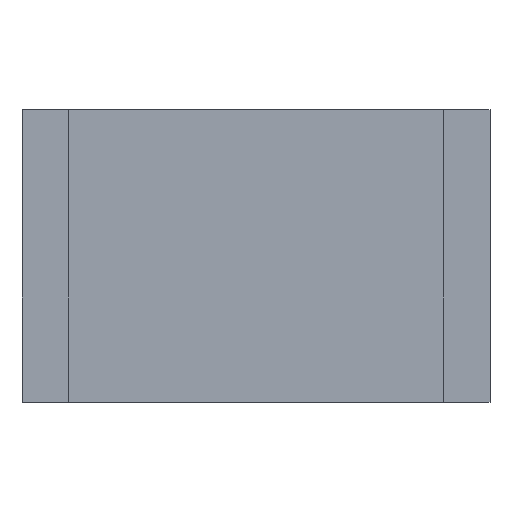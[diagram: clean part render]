
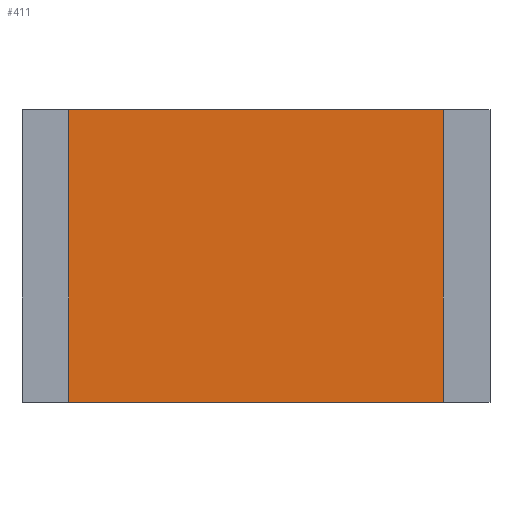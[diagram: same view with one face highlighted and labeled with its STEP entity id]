
A CAD part, top view. The second image highlights one B-rep face of the part: STEP entity #411.
In plain terms, the highlighted planar face has unit normal (0, 0, 1).
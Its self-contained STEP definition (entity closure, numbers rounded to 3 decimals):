
#411=ADVANCED_FACE('',(#810),#812,.T.);
#810=FACE_BOUND('',#811,.T.);
#811=EDGE_LOOP('',(#1097,#1098,#1099,#1100));
#812=PLANE('',#813);
#813=AXIS2_PLACEMENT_3D('',#814,#815,#816);
#814=CARTESIAN_POINT('',(0.,0.,0.325));
#815=DIRECTION('',(0.,0.,1.));
#816=DIRECTION('',(1.,0.,0.));
#1097=ORIENTED_EDGE('',*,*,#1269,.T.);
#1098=ORIENTED_EDGE('',*,*,#1273,.T.);
#1099=ORIENTED_EDGE('',*,*,#1276,.T.);
#1100=ORIENTED_EDGE('',*,*,#1278,.T.);
#1269=EDGE_CURVE('',#1435,#1433,#1436,.T.);
#1273=EDGE_CURVE('',#1433,#1440,#1442,.T.);
#1276=EDGE_CURVE('',#1440,#1445,#1447,.T.);
#1278=EDGE_CURVE('',#1445,#1435,#1449,.T.);
#1433=VERTEX_POINT('',#1760);
#1435=VERTEX_POINT('',#1764);
#1436=LINE('',#1765,#1766);
#1440=VERTEX_POINT('',#1775);
#1442=LINE('',#1779,#1780);
#1445=VERTEX_POINT('',#1786);
#1447=LINE('',#1790,#1791);
#1449=LINE('',#1796,#1797);
#1760=CARTESIAN_POINT('',(-0.8,0.625,0.325));
#1764=CARTESIAN_POINT('',(0.8,0.625,0.325));
#1765=CARTESIAN_POINT('',(0.8,0.625,0.325));
#1766=VECTOR('',#1767,1.);
#1767=DIRECTION('',(-1.,0.,0.));
#1775=CARTESIAN_POINT('',(-0.8,-0.625,0.325));
#1779=CARTESIAN_POINT('',(-0.8,0.625,0.325));
#1780=VECTOR('',#1781,1.);
#1781=DIRECTION('',(0.,-1.,0.));
#1786=CARTESIAN_POINT('',(0.8,-0.625,0.325));
#1790=CARTESIAN_POINT('',(-0.8,-0.625,0.325));
#1791=VECTOR('',#1792,1.);
#1792=DIRECTION('',(1.,0.,0.));
#1796=CARTESIAN_POINT('',(0.8,-0.625,0.325));
#1797=VECTOR('',#1798,1.);
#1798=DIRECTION('',(0.,1.,0.));
